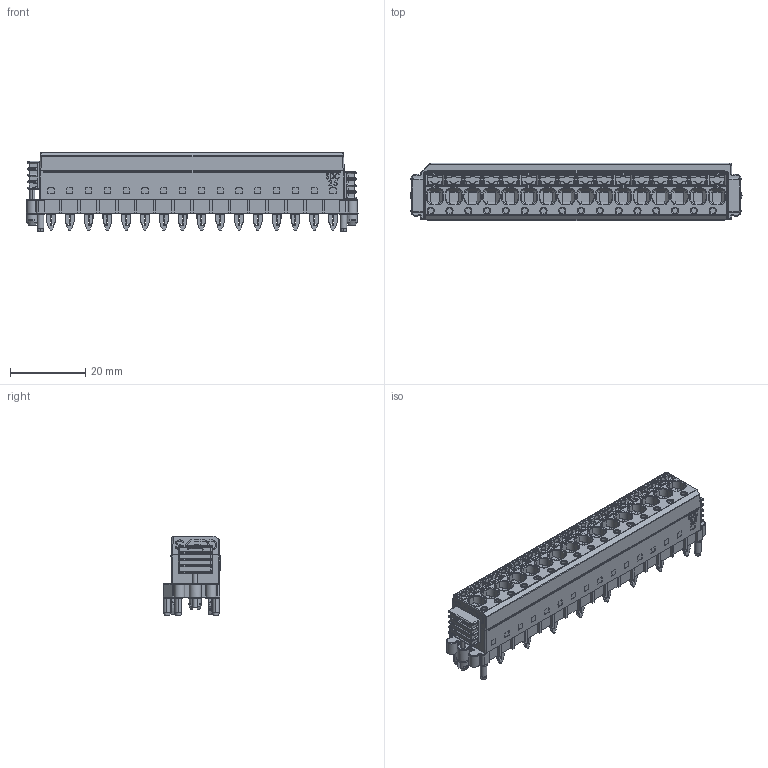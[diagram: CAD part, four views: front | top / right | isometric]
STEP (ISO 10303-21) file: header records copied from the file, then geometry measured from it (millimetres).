
FILE_DESCRIPTION(('Creo Elements/Direct Modeling STEP Export'),'2;1');
FILE_NAME('D:/temp/JobSpoolerServerData/JobServer Files/2dd188bb-0335-4592-9667-730ce0734096/work/output/model.stp','2018-07-31T 7:20:33',(''),(''),'Creo Elements/Direct Modeling STEP processor for AP214 (Solid Model)','Creo Elements/Direct Modeling 18.1I 14-Aug-2016 (C) Parametric Technology GmbH','');
FILE_SCHEMA(('AUTOMOTIVE_DESIGN { 1 0 10303 214 1 1 1 1 }'));
Products named in the file (8): SDC_2_5_5_GEH; PCB_Bohrloch.3; Ver._Bohrloch; SDC_2.5_Schieber; Position_Bohrloch; SDC-2.5-Seitenteil_links; SDC-2.5-Seitenteil_rechts; SDC_2.5_16-PV-5.0.1
Assembly tree (27 placements, depth 3):
  SDC_2.5_16-PV-5.0.1
    PCB_Bohrloch.3  x16
    SDC-2.5-Seitenteil_rechts
      Ver._Bohrloch
      SDC_2.5_Schieber
      Position_Bohrloch  x2
    SDC-2.5-Seitenteil_links
      Position_Bohrloch  x2
      SDC_2.5_Schieber
      Ver._Bohrloch
    SDC_2_5_5_GEH
Bounding box: 88.3 x 15.3 x 21.2 mm (x, y, z)
Volume: 16879.2 mm3; surface area: 9453.5 mm2
Topology: 25 solids, 25 shells, 2856 faces, 7543 edges, 4890 vertices
Faces by surface type: plane 1568, cylinder 914, torus 163, bspline 124, cone 54, extrusion 23, sphere 10
Entity records: 130850 total; most frequent: CARTESIAN_POINT 44489, ORIENTED_EDGE 14180, DIRECTION 12624, EDGE_CURVE 7090, VERTEX_POINT 4612, VECTOR 4566, LINE 4543, AXIS2_PLACEMENT_3D 4029
